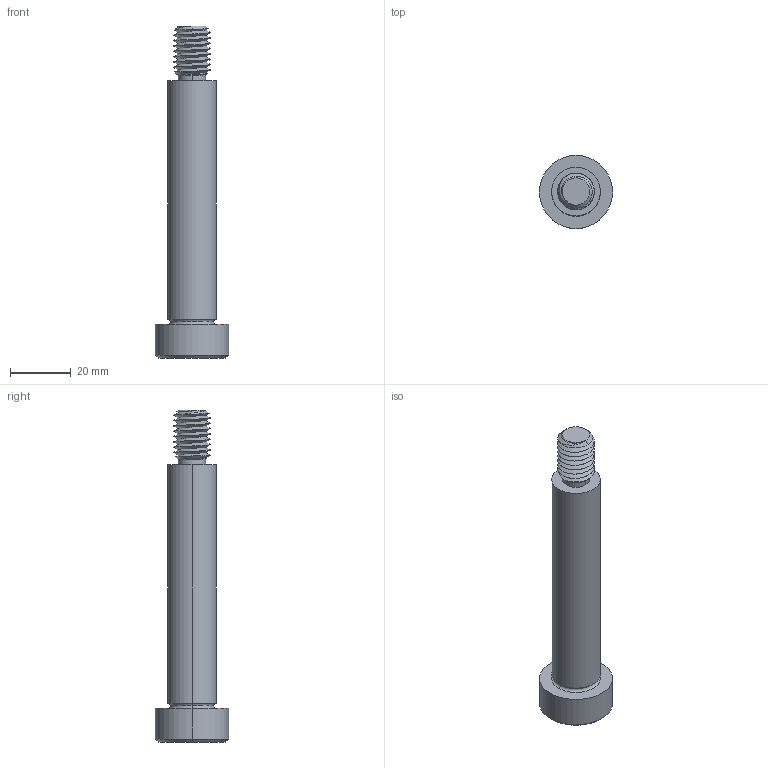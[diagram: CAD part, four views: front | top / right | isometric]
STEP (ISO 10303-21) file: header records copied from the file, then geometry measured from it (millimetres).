
FILE_DESCRIPTION (( 'STEP AP203' ), '1' );
FILE_NAME ('P0130.160-080-B2.step', '2021-11-09T22:19:05', ( '' ), ( '' ), 'SwSTEP 2.0', 'SolidWorks 2019', '' );
FILE_SCHEMA (( 'CONFIG_CONTROL_DESIGN' ));
Length unit declared in the file: millimetre
Products named in the file (1): P0130.160-080-B2
Bounding box: 24 x 24 x 109 mm (x, y, z)
Volume: 21990.4 mm3; surface area: 7064.4 mm2
Topology: 1 solids, 1 shells, 59 faces, 139 edges, 83 vertices
Faces by surface type: cylinder 22, plane 16, cone 15, torus 4, bspline 2
Entity records: 5164 total; most frequent: CARTESIAN_POINT 3839, ORIENTED_EDGE 274, DIRECTION 244, EDGE_CURVE 137, AXIS2_PLACEMENT_3D 98, VERTEX_POINT 83, EDGE_LOOP 62, FACE_OUTER_BOUND 59
